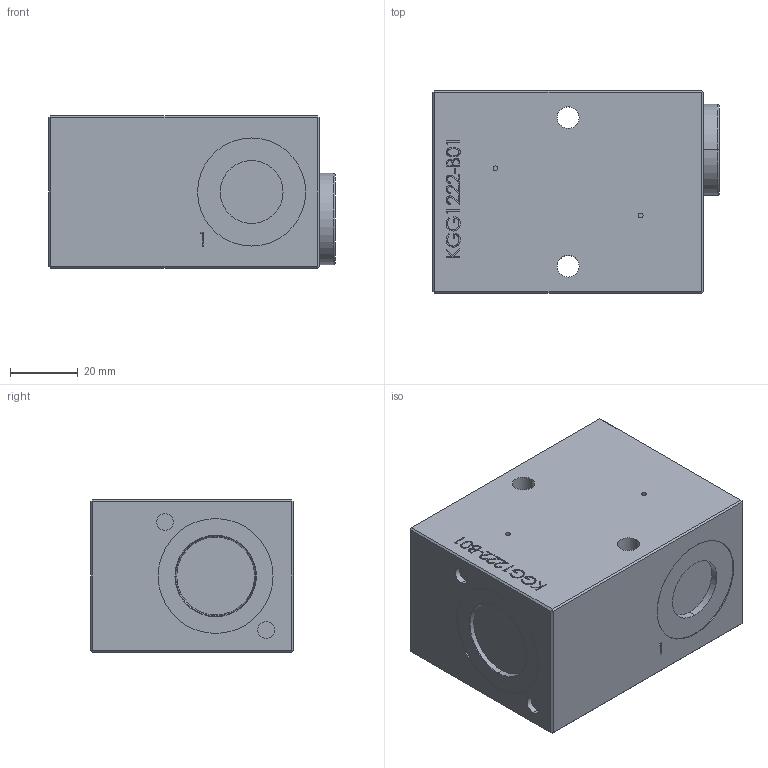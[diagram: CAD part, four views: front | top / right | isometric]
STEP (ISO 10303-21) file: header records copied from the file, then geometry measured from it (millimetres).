
FILE_DESCRIPTION (( 'STEP AP214' ), '1' );
FILE_NAME ('KGG1222-B01.STEP', '2016-11-25T10:54:00', ( '' ), ( '' ), 'SwSTEP 2.0', 'SolidWorks 2014', '' );
FILE_SCHEMA (( 'AUTOMOTIVE_DESIGN' ));
Length unit declared in the file: millimetre
Products named in the file (2): KGG1222-B01
Bounding box: 84.7 x 60 x 45 mm (x, y, z)
Volume: 212316.6 mm3; surface area: 26167.8 mm2
Topology: 2 solids, 3 shells, 239 faces, 590 edges, 386 vertices
Faces by surface type: plane 138, bspline 60, cylinder 35, torus 4, cone 2
Entity records: 13500 total; most frequent: CARTESIAN_POINT 5571, ORIENTED_EDGE 1180, DIRECTION 912, EDGE_CURVE 590, LINE 386, VECTOR 386, VERTEX_POINT 386, EDGE_LOOP 276
